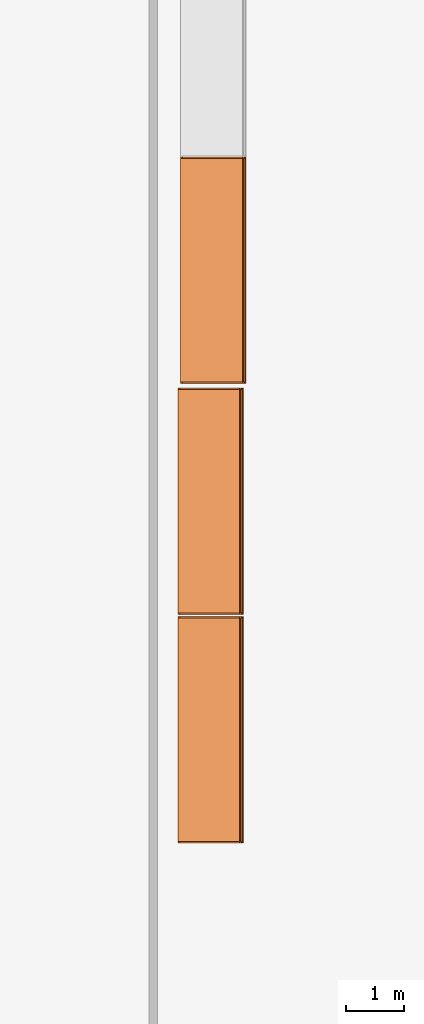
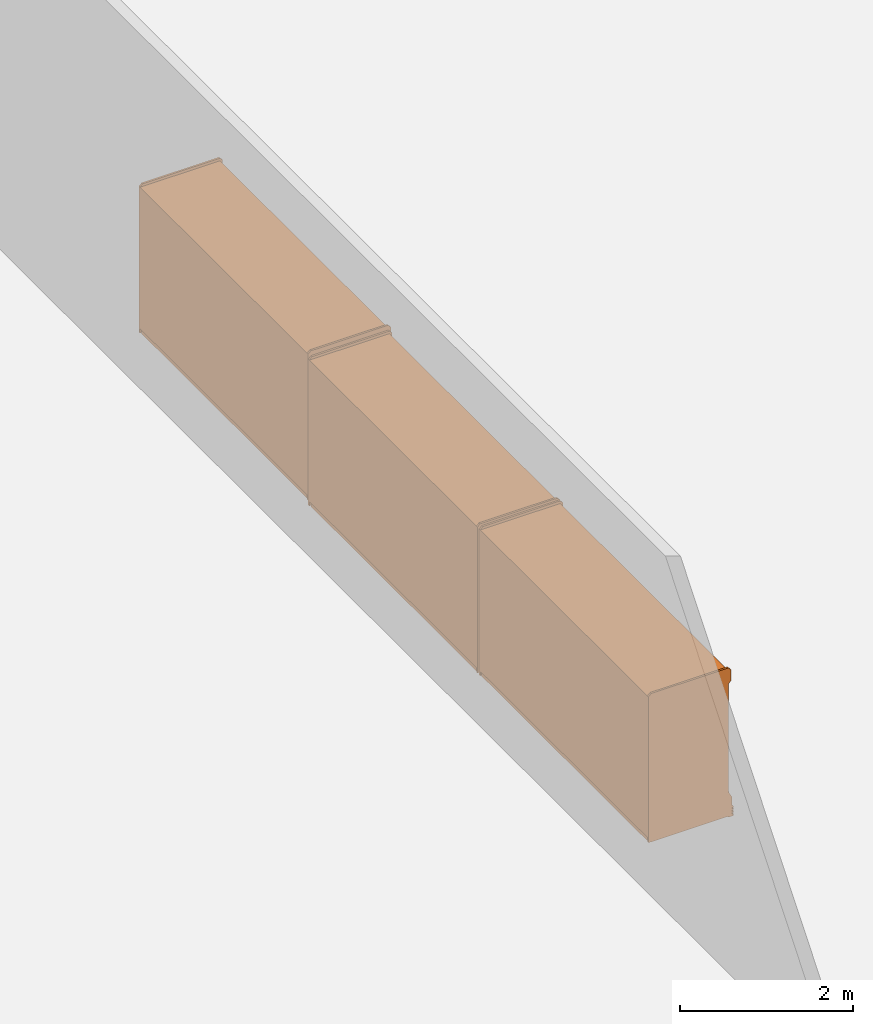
# One storey, part 2 of 11: 3 proxies.
"""IFC2X3 building model written with IfcOpenShell, lengths in metres."""

import ifcopenshell
import ifcopenshell.guid

model = None  # the IFC model being written
_history = None  # IfcOwnerHistory: only IFC2X3 demands one
_inside = {}  # id of a spatial element -> (the spatial element, [elements in it])
_under = {}  # id of a project, library or spatial element -> (it, [spatial elements below it])
_declared = {}  # id of a project -> (the project, [libraries it declares])
_typed = {}  # id of a type object -> (the type object, [elements of that type])
_made_of = {}  # id of a material, layer set ... -> (it, [elements and type objects made of it])


def new_model(schema):
    """Start an empty IFC model of exactly this schema.

    Asked for "IFC4X3", IfcOpenShell would pick the latest addendum, in which some entities
    have other attributes; the version numbers below select the first issue.
    IFC2X3 requires an IfcOwnerHistory on every rooted entity: one is made here for all.
    """
    global model, _history
    if schema == "IFC4X3":
        model = ifcopenshell.file(schema_version=(4, 3, 0, 0))
    else:
        model = ifcopenshell.file(schema=schema)
    _inside.clear()
    _under.clear()
    _declared.clear()
    _typed.clear()
    _made_of.clear()
    _history = None
    if model.schema == "IFC2X3":
        org = make("IfcOrganization", Name="unknown")
        user = make(
            "IfcPersonAndOrganization",
            ThePerson=make("IfcPerson", FamilyName="unknown"),
            TheOrganization=org,
        )
        app = make(
            "IfcApplication",
            ApplicationDeveloper=org,
            Version="unknown",
            ApplicationFullName="unknown",
            ApplicationIdentifier="unknown",
        )
        _history = make(
            "IfcOwnerHistory",
            OwningUser=user,
            OwningApplication=app,
            ChangeAction="ADDED",
            CreationDate=0,
        )
    return model


def make(cls, **values):
    """One entity of the class cls with the attributes given. An attribute that is None is left unset."""
    return model.create_entity(
        cls, **{name: value for name, value in values.items() if value is not None}
    )


def entity(cls, *values):
    """Any entity or typed value of the class cls, its attributes in the order of the schema. None: left unset."""
    e = model.create_entity(cls)
    for i, value in enumerate(values):
        if value is not None:
            e[i] = value
    return e


def rooted(cls, **values):
    """An entity with a GlobalId (a new one), such as an element, a storey or a relation."""
    return make(cls, GlobalId=ifcopenshell.guid.new(), OwnerHistory=_history, **values)


def si_unit(unit_type, name, prefix=None):
    """IfcSIUnit, for example si_unit("LENGTHUNIT", "METRE", prefix="MILLI")."""
    return make("IfcSIUnit", UnitType=unit_type, Prefix=prefix, Name=name)


def converted_unit(unit_type, name, factor, base, dimensions=None, offset=None):
    """IfcConversionBasedUnit, such as the inch: factor (a typed value) times the base unit."""
    return make(
        "IfcConversionBasedUnit"
        if offset is None
        else "IfcConversionBasedUnitWithOffset",
        ConversionOffset=offset,
        Dimensions=None
        if dimensions is None
        else entity("IfcDimensionalExponents", *dimensions),
        UnitType=unit_type,
        Name=name,
        ConversionFactor=make(
            "IfcMeasureWithUnit", ValueComponent=factor, UnitComponent=base
        ),
    )


def derived_unit(unit_type, elements):
    """IfcDerivedUnit: a product of units, each with its exponent."""
    return make(
        "IfcDerivedUnit",
        Elements=[
            make("IfcDerivedUnitElement", Unit=unit, Exponent=power)
            for unit, power in elements
        ],
        UnitType=unit_type,
    )


def assignment(units):
    """IfcUnitAssignment: the units of a project."""
    return None if units is None else make("IfcUnitAssignment", Units=units)


def point(xyz):
    """IfcCartesianPoint."""
    return None if xyz is None else make("IfcCartesianPoint", Coordinates=xyz)


def direction(xyz):
    """IfcDirection."""
    return None if xyz is None else make("IfcDirection", DirectionRatios=xyz)


def frame(location, z_axis=None, x_axis=None):
    """IfcAxis2Placement3D, a coordinate frame: its origin and axes. An axis left out is left unset."""
    return make(
        "IfcAxis2Placement3D",
        Location=point(location),
        Axis=direction(z_axis),
        RefDirection=direction(x_axis),
    )


def frame_2d(location, x_axis=None):
    """IfcAxis2Placement2D, a coordinate frame in the plane: its origin and x axis."""
    return make(
        "IfcAxis2Placement2D", Location=point(location), RefDirection=direction(x_axis)
    )


def origin():
    """The frame at (0, 0, 0) with its axes left unset."""
    return frame((0.0, 0.0, 0.0))


def origin_2d_with_axis():
    """The frame at (0, 0) in the plane with the x axis (1, 0) written out."""
    return frame_2d((0.0, 0.0), x_axis=(1.0, 0.0))


def place(relative_to, where):
    """IfcLocalPlacement: puts the frame where relative to a parent placement (None: the world)."""
    return make(
        "IfcLocalPlacement", PlacementRelTo=relative_to, RelativePlacement=where
    )


def context(
    kind, dimensions, precision=None, world=None, true_north=None, identifier=None
):
    """IfcGeometricRepresentationContext, for example the 3D "Model" context."""
    return make(
        "IfcGeometricRepresentationContext",
        ContextIdentifier=identifier,
        ContextType=kind,
        CoordinateSpaceDimension=dimensions,
        Precision=precision,
        WorldCoordinateSystem=world,
        TrueNorth=true_north,
    )


def subcontext(parent, identifier, kind, view, scale=None):
    """IfcGeometricRepresentationSubContext, for example "Body" below "Model"."""
    return make(
        "IfcGeometricRepresentationSubContext",
        ContextIdentifier=identifier,
        ContextType=kind,
        ParentContext=parent,
        TargetScale=scale,
        TargetView=view,
    )


def project(units=None, contexts=None):
    """IfcProject with its units and contexts."""
    return rooted(
        "IfcProject",
        Name="project",
        RepresentationContexts=contexts,
        UnitsInContext=assignment(units),
    )


def spatial(cls, under=None, at=None, **own):
    """A site, building, storey or space (cls), placed at a placement, below another one or the project."""
    s = rooted(cls, ObjectPlacement=at, **own)
    if under is not None:
        _under.setdefault(under.id(), (under, []))[1].append(s)
    return s


def polyline(points):
    """IfcPolyline through the points."""
    return make("IfcPolyline", Points=[point(p) for p in points])


def circle_curve(where, radius):
    """IfcCircle in the frame where."""
    return make("IfcCircle", Position=where, Radius=radius)


def parameter(value):
    """IfcParameterValue: where a trimmed curve begins or ends, as a parameter of its basis curve."""
    return model.create_entity("IfcParameterValue", value)


def trimmed(basis, trim1, trim2, sense, master):
    """IfcTrimmedCurve: the piece of a basis curve between two trims."""
    return make(
        "IfcTrimmedCurve",
        BasisCurve=basis,
        Trim1=trim1,
        Trim2=trim2,
        SenseAgreement=sense,
        MasterRepresentation=master,
    )


def segment(curve, same_sense, transition):
    """IfcCompositeCurveSegment."""
    return make(
        "IfcCompositeCurveSegment",
        Transition=transition,
        SameSense=same_sense,
        ParentCurve=curve,
    )


def composite_curve(segments, self_intersect=None):
    """IfcCompositeCurve: segments joined end to end."""
    return make("IfcCompositeCurve", Segments=segments, SelfIntersect=self_intersect)


def profile(cls, at=None, kind="AREA", **sizes):
    """A parametric profile (cls). Its sizes go by their IFC names, for example OverallWidth=200.0."""
    return make(cls, ProfileType=kind, Position=at, **sizes)


def rectangle(**sizes):
    """IfcRectangleProfileDef."""
    return profile("IfcRectangleProfileDef", **sizes)


def outline(outer, holes=None, kind="AREA"):
    """IfcArbitraryClosedProfileDef: a profile drawn as a closed curve; with holes, ...WithVoids."""
    if holes is None:
        return make("IfcArbitraryClosedProfileDef", ProfileType=kind, OuterCurve=outer)
    return make(
        "IfcArbitraryProfileDefWithVoids",
        ProfileType=kind,
        OuterCurve=outer,
        InnerCurves=holes,
    )


def extrude(swept, where, along, depth):
    """IfcExtrudedAreaSolid: the profile swept, set in the frame where, extruded along a direction by depth."""
    return make(
        "IfcExtrudedAreaSolid",
        SweptArea=swept,
        Position=where,
        ExtrudedDirection=direction(along),
        Depth=depth,
    )


def shape(context_of_items, identifier, shape_type, items):
    """IfcShapeRepresentation: the items that make up one representation, for example the "Body"."""
    return make(
        "IfcShapeRepresentation",
        ContextOfItems=context_of_items,
        RepresentationIdentifier=identifier,
        RepresentationType=shape_type,
        Items=items,
    )


def source(mapping_origin, context_of_items, identifier, shape_type, items):
    """IfcRepresentationMap: a shape defined once, which mapped items show again and again."""
    return make(
        "IfcRepresentationMap",
        MappingOrigin=mapping_origin,
        MappedRepresentation=shape(context_of_items, identifier, shape_type, items),
    )


def transform(
    local_origin,
    x_axis=None,
    y_axis=None,
    z_axis=None,
    scale=None,
    scale2=None,
    scale3=None,
    uniform=True,
):
    """IfcCartesianTransformationOperator3D, or its non-uniform kind. x_axis, y_axis, z_axis: its Axis1, 2, 3."""
    if uniform:
        return make(
            "IfcCartesianTransformationOperator3D",
            Axis1=direction(x_axis),
            Axis2=direction(y_axis),
            LocalOrigin=point(local_origin),
            Scale=scale,
            Axis3=direction(z_axis),
        )
    return make(
        "IfcCartesianTransformationOperator3DnonUniform",
        Axis1=direction(x_axis),
        Axis2=direction(y_axis),
        LocalOrigin=point(local_origin),
        Scale=scale,
        Axis3=direction(z_axis),
        Scale2=scale2,
        Scale3=scale3,
    )


def mapped(mapping_source, mapping_target):
    """IfcMappedItem: shows the shape of a source again, moved by a transform."""
    return make(
        "IfcMappedItem", MappingSource=mapping_source, MappingTarget=mapping_target
    )


def material(Name=None, Category=None):
    """IfcMaterial."""
    return make("IfcMaterial", Name=Name, Category=Category)


def material_list(materials):
    """IfcMaterialList."""
    return make("IfcMaterialList", Materials=materials)


def made_of(thing, what):
    """Note that an element or type object is made of a material, layer set ...; save() writes the relation."""
    if what is not None:
        _made_of.setdefault(what.id(), (what, []))[1].append(thing)
    return thing


def type_object(cls, material=None, **own):
    """A type object (cls), such as IfcWallType, which elements share."""
    return made_of(rooted(cls, **own), material)


def type_shapes(of_type, sources):
    """Give a type object the sources (RepresentationMaps) that its elements show as mapped items."""
    of_type.RepresentationMaps = sources


def element(
    cls,
    number,
    at=None,
    inside=None,
    cuts=None,
    type_object=None,
    material=None,
    context=None,
    identifier="Body",
    shape_type=None,
    held_by="IfcProductDefinitionShape",
    body=None,
    shapes=None,
    **own,
):
    """One element of the class cls, such as IfcWall. Its Tag is "e" and its number.

    at: its placement. inside: the storey or other place that contains it. cuts: it is an
    opening in that element (IfcRelVoidsElement). A single representation is given by context,
    identifier, shape_type and body (its items); several are given by shapes. held_by: the class
    of the entity that holds the representations. save() writes the other relations.
    """
    e = rooted(cls, Tag="e%d" % number, ObjectPlacement=at, **own)
    if body is not None:
        shapes = [shape(context, identifier, shape_type, body)]
    if shapes is not None:
        e.Representation = make(held_by, Representations=shapes)
    if inside is not None:
        _inside.setdefault(inside.id(), (inside, []))[1].append(e)
    if cuts is not None:
        rooted(
            "IfcRelVoidsElement", RelatingBuildingElement=cuts, RelatedOpeningElement=e
        )
    if type_object is not None:
        _typed.setdefault(type_object.id(), (type_object, []))[1].append(e)
    return made_of(e, material)


def aggregate(whole, parts):
    """IfcRelAggregates: a whole, such as a stair, and the parts it consists of."""
    return rooted("IfcRelAggregates", RelatingObject=whole, RelatedObjects=parts)


def save(model, path):
    """Write the relations noted so far, then the file.

    IfcRelAggregates (storeys below a building ...), IfcRelContainedInSpatialStructure (elements
    in a storey), IfcRelDefinesByType, IfcRelAssociatesMaterial and IfcRelDeclares: one each for
    every whole, place, type object, material and project.
    """
    for whole, parts in _under.values():
        aggregate(whole, parts)
    for where, things in _inside.values():
        rooted(
            "IfcRelContainedInSpatialStructure",
            RelatedElements=things,
            RelatingStructure=where,
        )
    for kind, things in _typed.values():
        rooted("IfcRelDefinesByType", RelatedObjects=things, RelatingType=kind)
    for what, things in _made_of.values():
        rooted("IfcRelAssociatesMaterial", RelatedObjects=things, RelatingMaterial=what)
    for by, libraries in _declared.values():
        rooted("IfcRelDeclares", RelatingContext=by, RelatedDefinitions=libraries)
    model.write(path)


model = new_model("IFC2X3")

# Units and contexts
model_context = context("Model", 3, precision=1e-05, world=origin(), true_north=direction((6.12303176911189e-17, 1.0)))
body_context = subcontext(model_context, "Body", "Model", "MODEL_VIEW")
ifc_project = project(units=[si_unit("LENGTHUNIT", "METRE"), si_unit("AREAUNIT", "SQUARE_METRE"), si_unit("VOLUMEUNIT", "CUBIC_METRE"), converted_unit("PLANEANGLEUNIT", "DEGREE", entity("IfcRatioMeasure", 0.0174532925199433), si_unit("PLANEANGLEUNIT", "RADIAN"), dimensions=[0, 0, 0, 0, 0, 0, 0]), si_unit("MASSUNIT", "GRAM", prefix="KILO"), derived_unit("MASSDENSITYUNIT", [(si_unit("MASSUNIT", "GRAM", prefix="KILO"), 1), (si_unit("LENGTHUNIT", "METRE"), -3)]), si_unit("TIMEUNIT", "SECOND"), si_unit("FREQUENCYUNIT", "HERTZ"), si_unit("THERMODYNAMICTEMPERATUREUNIT", "DEGREE_CELSIUS"), derived_unit("THERMALTRANSMITTANCEUNIT", [(si_unit("MASSUNIT", "GRAM", prefix="KILO"), 1), (si_unit("THERMODYNAMICTEMPERATUREUNIT", "KELVIN"), -1), (si_unit("TIMEUNIT", "SECOND"), -3)]), derived_unit("VOLUMETRICFLOWRATEUNIT", [(si_unit("LENGTHUNIT", "METRE"), 3), (si_unit("TIMEUNIT", "SECOND"), -1)]), si_unit("ELECTRICCURRENTUNIT", "AMPERE"), si_unit("ELECTRICVOLTAGEUNIT", "VOLT"), si_unit("POWERUNIT", "WATT"), si_unit("FORCEUNIT", "NEWTON", prefix="KILO"), si_unit("ILLUMINANCEUNIT", "LUX"), si_unit("LUMINOUSFLUXUNIT", "LUMEN"), si_unit("LUMINOUSINTENSITYUNIT", "CANDELA"), derived_unit("USERDEFINED", [(si_unit("MASSUNIT", "GRAM", prefix="KILO"), -1), (si_unit("LENGTHUNIT", "METRE"), -2), (si_unit("TIMEUNIT", "SECOND"), 3), (si_unit("LUMINOUSFLUXUNIT", "LUMEN"), 1)]), derived_unit("LINEARVELOCITYUNIT", [(si_unit("LENGTHUNIT", "METRE"), 1), (si_unit("TIMEUNIT", "SECOND"), -1)]), si_unit("PRESSUREUNIT", "PASCAL"), derived_unit("USERDEFINED", [(si_unit("LENGTHUNIT", "METRE"), -2), (si_unit("MASSUNIT", "GRAM", prefix="KILO"), 1), (si_unit("TIMEUNIT", "SECOND"), -2)])], contexts=[model_context])

# Site, building, storey
site_placement = place(None, origin())
site = spatial("IfcSite", under=ifc_project, at=site_placement, Name="Default", CompositionType="ELEMENT")
building_placement = place(site_placement, origin())
building = spatial("IfcBuilding", under=site, at=building_placement, CompositionType="ELEMENT")
storey_placement = place(building_placement, frame((0.0, 0.0, 1.49233632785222)))
storey = spatial("IfcBuildingStorey", under=building, at=storey_placement, Name="Niveau 0", CompositionType="ELEMENT", Elevation=1.49233632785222)

# Proxies
ifc_material_1 = material(Name="Métal - Chrome")
ifc_material_2 = material(Name="Verre")
ifc_material_3 = material(Name="Peinture - Blanc")
ifc_material_4 = material(Name="Peinture - Gris foncé")
ifc_material_list_1 = material_list([ifc_material_1, ifc_material_2, ifc_material_3, ifc_material_4])
ifc_material_list_2 = material_list([ifc_material_1, ifc_material_2, ifc_material_3, ifc_material_4])
building_element_proxy_type = type_object("IfcBuildingElementProxyType", Name="Longueur 3910 mm", PredefinedType="NOTDEFINED", material=ifc_material_list_2)
shared_shape = source(origin(), body_context, "Body", "SweptSolid", [
    extrude(outline(polyline([(-0.3937, -0.819150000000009), (0.3683, -0.819150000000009), (0.3683, -0.768350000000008), (-0.3429, -0.768350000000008), (-0.3429, 0.768350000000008), (0.3683, 0.768350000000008), (0.3683, 0.819150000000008), (-0.3937, 0.819150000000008), (-0.3937, -0.819150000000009)])), frame((0.211931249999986, 0.0126999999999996, 1.18745000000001), z_axis=(0.0, 1.0, 0.0), x_axis=(1.0, 0.0, 0.0)), (0.0, 0.0, 1.0), 0.0253999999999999),
    extrude(outline(polyline([(-0.3937, -0.819150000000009), (0.3683, -0.819150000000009), (0.3683, -0.768350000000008), (-0.3429, -0.768350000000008), (-0.3429, 0.768350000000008), (0.3683, 0.768350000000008), (0.3683, 0.819150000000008), (-0.3937, 0.819150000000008), (-0.3937, -0.819150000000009)])), frame((-0.556418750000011, 0.0126999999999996, 1.18745000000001), z_axis=(0.0, 1.0, 0.0), x_axis=(1.0, 0.0, 0.0)), (0.0, 0.0, 1.0), 0.0253999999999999),
    extrude(outline(polyline([(-0.3937, -0.819150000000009), (0.3683, -0.819150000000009), (0.3683, -0.768350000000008), (-0.3429, -0.768350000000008), (-0.3429, 0.768350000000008), (0.3683, 0.768350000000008), (0.3683, 0.819150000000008), (-0.3937, 0.819150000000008), (-0.3937, -0.819150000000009)])), frame((-1.32476875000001, 0.0126999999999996, 1.18745000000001), z_axis=(0.0, 1.0, 0.0), x_axis=(1.0, 0.0, 0.0)), (0.0, 0.0, 1.0), 0.0253999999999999),
    extrude(outline(polyline([(-0.3937, -0.819150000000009), (0.3683, -0.819150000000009), (0.3683, -0.768350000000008), (-0.3429, -0.768350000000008), (-0.3429, 0.768350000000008), (0.3683, 0.768350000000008), (0.3683, 0.819150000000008), (-0.3937, 0.819150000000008), (-0.3937, -0.819150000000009)])), frame((-2.09311875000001, 0.0126999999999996, 1.18745000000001), z_axis=(0.0, 1.0, 0.0), x_axis=(1.0, 0.0, 0.0)), (0.0, 0.0, 1.0), 0.0253999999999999),
    extrude(outline(polyline([(-0.902820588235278, -0.201945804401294), (-0.902820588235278, -0.214645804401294), (0.82437941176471, -0.214645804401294), (0.82437941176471, -0.201945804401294), (0.608479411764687, -0.201945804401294), (0.608479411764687, -0.0898341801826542), (0.589429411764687, -0.070784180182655), (0.589429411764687, 0.303324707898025), (0.570379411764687, 0.312207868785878), (0.570379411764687, -0.201945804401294), (0.316379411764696, -0.201945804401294), (0.316379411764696, -0.0851023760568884), (0.297329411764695, -0.0660523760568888), (0.297329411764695, 0.303324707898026), (0.278279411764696, 0.312207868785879), (0.278279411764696, -0.201945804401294), (0.0242794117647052, -0.201945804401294), (0.0242794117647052, -0.0803705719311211), (0.00522941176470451, -0.0613205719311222), (0.00522941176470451, 0.391796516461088), (-0.0138205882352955, 0.40067967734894), (-0.0138205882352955, -0.201945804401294), (-0.267820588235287, -0.201945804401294), (-0.267820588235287, -0.0851023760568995), (-0.286870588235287, -0.0660523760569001), (-0.286870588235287, 0.391796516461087), (-0.305920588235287, 0.400679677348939), (-0.305920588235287, -0.201945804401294), (-0.559920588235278, -0.201945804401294), (-0.559920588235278, -0.0803705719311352), (-0.578970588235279, -0.0613205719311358), (-0.578970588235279, 0.387979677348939), (-0.598020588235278, 0.394954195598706), (-0.598020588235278, -0.201945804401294), (-0.902820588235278, -0.201945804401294)])), frame((-2.10542815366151, 0.69975419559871, 1.12917941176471), z_axis=(-1.0, 0.0, 0.0), x_axis=(0.0, 0.0, -1.0)), (0.0, 0.0, -1.0), 0.0119188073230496),
    extrude(outline(polyline([(-0.902820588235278, -0.201945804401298), (-0.902820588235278, -0.214645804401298), (0.82437941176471, -0.214645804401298), (0.82437941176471, -0.201945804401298), (0.608479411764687, -0.201945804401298), (0.608479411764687, -0.089834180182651), (0.589429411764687, -0.0707841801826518), (0.589429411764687, 0.303324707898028), (0.570379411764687, 0.312207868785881), (0.570379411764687, -0.201945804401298), (0.316379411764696, -0.201945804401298), (0.316379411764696, -0.0851023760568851), (0.297329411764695, -0.0660523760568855), (0.297329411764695, 0.303324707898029), (0.278279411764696, 0.312207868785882), (0.278279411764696, -0.201945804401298), (0.0242794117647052, -0.201945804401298), (0.0242794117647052, -0.0803705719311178), (0.00522941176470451, -0.0613205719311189), (0.00522941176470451, 0.391796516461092), (-0.0138205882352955, 0.400679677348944), (-0.0138205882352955, -0.201945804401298), (-0.267820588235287, -0.201945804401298), (-0.267820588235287, -0.0851023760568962), (-0.286870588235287, -0.0660523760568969), (-0.286870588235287, 0.39179651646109), (-0.305920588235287, 0.400679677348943), (-0.305920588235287, -0.201945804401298), (-0.559920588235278, -0.201945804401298), (-0.559920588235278, -0.0803705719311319), (-0.578970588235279, -0.0613205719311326), (-0.578970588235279, 0.387979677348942), (-0.598020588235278, 0.394954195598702), (-0.598020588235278, -0.201945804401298), (-0.902820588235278, -0.201945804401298)])), frame((-0.556028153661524, 0.699754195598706, 1.12917941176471), z_axis=(-1.0, 0.0, 0.0), x_axis=(0.0, 0.0, -1.0)), (0.0, 0.0, -1.0), 0.0119188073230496),
    extrude(outline(polyline([(-0.3937, -0.819150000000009), (0.3683, -0.819150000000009), (0.3683, -0.768350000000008), (-0.3429, -0.768350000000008), (-0.3429, 0.768350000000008), (0.3683, 0.768350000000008), (0.3683, 0.819150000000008), (-0.3937, 0.819150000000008), (-0.3937, -0.819150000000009)])), frame((-2.86146875, 0.0126999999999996, 1.18745000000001), z_axis=(0.0, 1.0, 0.0), x_axis=(1.0, 0.0, 0.0)), (0.0, 0.0, 1.0), 0.0253999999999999),
    extrude(rectangle(XDim=0.00634999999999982, YDim=2.20345000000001, at=frame_2d((-2.16840434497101e-18, 0.0), x_axis=(1.0, 0.0))), frame((-0.565943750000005, 0.0285749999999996, 0.419100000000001), z_axis=(0.0, 0.0, 1.0), x_axis=(0.0, 1.0, 0.0)), (0.0, 0.0, 1.0), 1.53670000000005),
    extrude(rectangle(XDim=0.00634999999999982, YDim=1.49224999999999, at=frame_2d((-2.16840434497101e-18, -1.11022302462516e-16), x_axis=(1.0, 0.0))), frame((-2.46459375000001, 0.0285749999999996, 0.4191), z_axis=(0.0, 0.0, 1.0), x_axis=(0.0, 1.0, 0.0)), (0.0, 0.0, 1.0), 1.53669999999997),
    extrude(outline(polyline([(-0.88265, -1.9304), (0.882649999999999, -1.9304), (0.88265, 1.9304), (-0.882649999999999, 1.9304), (-0.88265, -1.9304)]), holes=[polyline([(-0.806450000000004, -0.0190500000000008), (-0.806450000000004, 1.8923), (0.80645, 1.8923), (0.80645, -0.0190500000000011), (0.806449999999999, -1.8923), (-0.806450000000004, -1.8923), (-0.806450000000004, -0.0190500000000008)])]), frame((-1.35651875, 0.0380999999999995, 1.18745), z_axis=(0.0, 1.0, 0.0), x_axis=(0.0, 0.0, -1.0)), (0.0, 0.0, 1.0), 0.0381),
    extrude(outline(composite_curve([segment(trimmed(circle_curve(frame_2d((-0.0095885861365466, 0.0), x_axis=(1.0, 0.0)), 0.0327139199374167), [parameter(287.043889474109)], [parameter(72.9561105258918)], True, "PARAMETER"), True, "CONTINUOUS"), segment(polyline([(0.0, 0.0312771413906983), (0.0, -0.0312771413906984)]), True, "CONTINUOUS")], self_intersect=False)), frame((-3.28691875, 0.0, 0.324322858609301), z_axis=(1.0, 0.0, 0.0), x_axis=(0.0, -1.0, 0.0)), (0.0, 0.0, 1.0), 3.8608),
    extrude(outline(polyline([(-0.058322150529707, -0.045007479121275), (-0.0317412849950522, -0.045007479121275), (-0.0206789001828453, -0.0360006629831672), (-0.0312750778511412, -0.0229861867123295), (-0.0214265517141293, -0.0149676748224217), (-0.0108303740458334, -0.0279821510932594), (0.00394241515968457, -0.0159543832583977), (-0.00665376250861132, -0.00293990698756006), (0.00811902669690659, 0.0090878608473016), (0.0187152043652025, -0.00392661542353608), (0.0334879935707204, 0.00810115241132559), (0.0228918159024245, 0.0211156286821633), (0.0376646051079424, 0.0331433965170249), (0.0482607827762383, 0.0201289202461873), (0.0704563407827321, 0.0382001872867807), (0.0277861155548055, 0.0906087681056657), (-0.0903961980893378, -0.00561337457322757), (-0.058322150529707, -0.045007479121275)])), frame((-3.31231875, -0.052721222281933, 0.0787558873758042), z_axis=(1.0, 0.0, 0.0), x_axis=(0.0, -0.631378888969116, -0.775474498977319)), (0.0, 0.0, 1.0), 3.9116),
    extrude(outline(polyline([(-0.78162589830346, -1.01392662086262), (0.249253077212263, -1.01392662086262), (0.285174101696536, -0.978005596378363), (0.285174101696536, -0.825605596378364), (0.249253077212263, -0.789684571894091), (0.249253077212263, 0.736494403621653), (0.300053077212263, 0.824482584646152), (0.300053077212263, 0.939694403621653), (0.249253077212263, 0.939694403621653), (0.249253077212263, 1.07939440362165), (-0.817546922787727, 1.07939440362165), (-0.817546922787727, -0.978005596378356), (-0.78162589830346, -1.01392662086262)])), frame((0.573881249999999, 0.249253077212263, 1.09209440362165), z_axis=(1.0, 0.0, 0.0), x_axis=(0.0, -1.0, 0.0)), (0.0, 0.0, 1.0), 0.0253999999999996),
    extrude(outline(polyline([(-0.78162589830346, -1.01392662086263), (0.249253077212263, -1.01392662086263), (0.285174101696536, -0.97800559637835), (0.285174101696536, -0.825605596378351), (0.249253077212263, -0.789684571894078), (0.249253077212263, 0.736494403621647), (0.300053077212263, 0.824482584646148), (0.300053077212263, 0.939694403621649), (0.249253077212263, 0.939694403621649), (0.249253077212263, 1.07939440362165), (-0.817546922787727, 1.07939440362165), (-0.817546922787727, -0.97800559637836), (-0.78162589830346, -1.01392662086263)])), frame((-3.31231875, 0.249253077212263, 1.09209440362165), z_axis=(1.0, 0.0, 0.0), x_axis=(0.0, -1.0, 0.0)), (0.0, 0.0, 1.0), 0.0253999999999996),
    extrude(rectangle(XDim=3.8354, YDim=0.6096, at=origin_2d_with_axis()), frame((-1.35651875, 0.596900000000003, 0.558800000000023)), (0.0, 0.0, 1.0), 0.009525),
    extrude(rectangle(XDim=3.8354, YDim=0.6096, at=origin_2d_with_axis()), frame((-1.35651875, 0.596900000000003, 1.72719999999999)), (0.0, 0.0, 1.0), 0.009525),
    extrude(rectangle(XDim=3.8354, YDim=0.6096, at=origin_2d_with_axis()), frame((-1.35651875, 0.596900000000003, 1.4351)), (0.0, 0.0, 1.0), 0.009525),
    extrude(rectangle(XDim=3.8354, YDim=0.6096, at=frame_2d((0.0, -5.55111512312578e-17), x_axis=(1.0, 0.0))), frame((-1.35651875, 0.596900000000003, 1.14300000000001)), (0.0, 0.0, 1.0), 0.009525),
    extrude(rectangle(XDim=3.8354, YDim=0.6096, at=frame_2d((0.0, -5.55111512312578e-17), x_axis=(1.0, 0.0))), frame((-1.35651875, 0.596900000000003, 0.850900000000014)), (0.0, 0.0, 1.0), 0.009525),
    extrude(outline(polyline([(-0.902820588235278, -0.198746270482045), (-0.902820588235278, -0.211446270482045), (0.82437941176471, -0.211446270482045), (0.82437941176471, -0.198746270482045), (0.608479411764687, -0.198746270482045), (0.608479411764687, -0.0923601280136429), (0.589429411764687, -0.0733101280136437), (0.589429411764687, 0.300798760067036), (0.570379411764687, 0.309681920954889), (0.570379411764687, -0.198746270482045), (0.316379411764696, -0.198746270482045), (0.316379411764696, -0.0876283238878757), (0.297329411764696, -0.0685783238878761), (0.297329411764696, 0.300798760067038), (0.278279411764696, 0.309681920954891), (0.278279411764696, -0.198746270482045), (0.0242794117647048, -0.198746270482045), (0.0242794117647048, -0.082896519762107), (0.0052294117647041, -0.0638465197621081), (0.0052294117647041, 0.389270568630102), (-0.0138205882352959, 0.398153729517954), (-0.0138205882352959, -0.198746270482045), (-0.267820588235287, -0.198746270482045), (-0.267820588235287, -0.0876283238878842), (-0.286870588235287, -0.0685783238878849), (-0.286870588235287, 0.389270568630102), (-0.305920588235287, 0.398153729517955), (-0.305920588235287, -0.198746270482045), (-0.559920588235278, -0.198746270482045), (-0.559920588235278, -0.0828965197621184), (-0.578970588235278, -0.0638465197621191), (-0.578970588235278, 0.385453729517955), (-0.598020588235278, 0.398153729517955), (-0.598020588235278, -0.198746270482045), (-0.902820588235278, -0.198746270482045)])), frame((-1.36247815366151, 0.702953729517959, 1.12917941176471), z_axis=(-1.0, 0.0, 0.0), x_axis=(0.0, 0.0, -1.0)), (0.0, 0.0, -1.0), 0.0119188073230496),
    extrude(outline(polyline([(-0.902820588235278, -0.198746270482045), (-0.902820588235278, -0.211446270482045), (0.82437941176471, -0.211446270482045), (0.82437941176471, -0.198746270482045), (0.608479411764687, -0.198746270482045), (0.608479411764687, -0.0923601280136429), (0.589429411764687, -0.0733101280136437), (0.589429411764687, 0.300798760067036), (0.570379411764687, 0.309681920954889), (0.570379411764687, -0.198746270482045), (0.316379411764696, -0.198746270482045), (0.316379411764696, -0.0876283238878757), (0.297329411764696, -0.0685783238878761), (0.297329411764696, 0.300798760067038), (0.278279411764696, 0.309681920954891), (0.278279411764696, -0.198746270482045), (0.0242794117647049, -0.198746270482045), (0.0242794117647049, -0.082896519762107), (0.00522941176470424, -0.0638465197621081), (0.00522941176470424, 0.389270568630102), (-0.0138205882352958, 0.398153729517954), (-0.0138205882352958, -0.198746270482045), (-0.267820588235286, -0.198746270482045), (-0.267820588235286, -0.0876283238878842), (-0.286870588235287, -0.0685783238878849), (-0.286870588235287, 0.389270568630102), (-0.305920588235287, 0.398153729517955), (-0.305920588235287, -0.198746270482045), (-0.559920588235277, -0.198746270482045), (-0.559920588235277, -0.0828965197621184), (-0.578970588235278, -0.0638465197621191), (-0.578970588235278, 0.385453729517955), (-0.598020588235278, 0.398153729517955), (-0.598020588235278, -0.198746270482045), (-0.902820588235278, -0.198746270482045)])), frame((0.548481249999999, 0.702953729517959, 1.12917941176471), z_axis=(-1.0, 0.0, 0.0), x_axis=(0.0, 0.0, -1.0)), (0.0, 0.0, -1.0), 0.0126999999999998),
    extrude(outline(polyline([(-0.902820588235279, -0.198746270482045), (-0.902820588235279, -0.211446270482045), (0.824379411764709, -0.211446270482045), (0.824379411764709, -0.198746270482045), (0.608479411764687, -0.198746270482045), (0.608479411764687, -0.0923601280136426), (0.589429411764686, -0.0733101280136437), (0.589429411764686, 0.300798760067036), (0.570379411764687, 0.309681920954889), (0.570379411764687, -0.198746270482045), (0.316379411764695, -0.198746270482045), (0.316379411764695, -0.0876283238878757), (0.297329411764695, -0.0685783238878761), (0.297329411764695, 0.300798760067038), (0.278279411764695, 0.309681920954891), (0.278279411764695, -0.198746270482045), (0.0242794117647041, -0.198746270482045), (0.0242794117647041, -0.082896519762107), (0.00522941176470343, -0.0638465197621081), (0.00522941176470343, 0.389270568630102), (-0.0138205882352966, 0.398153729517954), (-0.0138205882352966, -0.198746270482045), (-0.267820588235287, -0.198746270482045), (-0.267820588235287, -0.0876283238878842), (-0.286870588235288, -0.0685783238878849), (-0.286870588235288, 0.389270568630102), (-0.305920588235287, 0.398153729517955), (-0.305920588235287, -0.198746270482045), (-0.559920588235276, -0.198746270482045), (-0.559920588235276, -0.0828965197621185), (-0.578970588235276, -0.0638465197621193), (-0.578970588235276, 0.385453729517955), (-0.598020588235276, 0.398153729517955), (-0.598020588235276, -0.198746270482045), (-0.902820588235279, -0.198746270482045)])), frame((-3.27421875, 0.702953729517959, 1.12917941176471), z_axis=(-1.0, 0.0, 0.0), x_axis=(0.0, 0.0, -1.0)), (0.0, 0.0, -1.0), 0.0127000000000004),
    extrude(outline(polyline([(-0.99836485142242, -0.344904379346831), (-0.947564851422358, -0.344904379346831), (-0.947564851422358, -0.192504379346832), (-0.960264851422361, -0.192504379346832), (-0.960264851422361, 0.569495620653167), (0.766935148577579, 0.569495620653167), (0.766935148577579, -0.306804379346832), (0.716135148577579, -0.306804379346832), (0.716135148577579, -0.344904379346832), (0.855178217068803, -0.344904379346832), (0.995535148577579, -0.204547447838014), (0.995535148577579, 0.721895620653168), (-0.99836485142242, 0.721895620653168), (-0.99836485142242, -0.344904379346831)])), frame((-3.28691875, 0.344904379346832, 1.07173514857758), z_axis=(1.0, 0.0, 0.0), x_axis=(0.0, 0.0, -1.0)), (0.0, 0.0, 1.0), 3.8608),
    extrude(rectangle(XDim=3.8608, YDim=0.85725, at=frame_2d((-3.33066907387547e-16, -5.55111512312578e-17), x_axis=(1.0, 0.0))), frame((-1.35651875, 0.619125, 0.0), z_axis=(0.0, 0.0, 1.0), x_axis=(-1.0, 0.0, 0.0)), (0.0, 0.0, 1.0), 0.0762),
])
type_shapes(building_element_proxy_type, [shared_shape])
proxy_1_placement = place(storey_placement, frame((-1.86966022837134, -14.6041311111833, 0.0), z_axis=(0.0, 0.0, 1.0), x_axis=(0.0, 1.0, 0.0)))
element("IfcBuildingElementProxy", 1, at=proxy_1_placement, inside=storey, type_object=building_element_proxy_type, material=ifc_material_list_1, Name="Congélateur - Vertical cinq portes:Longueur 3910 mm", ObjectType="Congélateur - Vertical cinq portes:Longueur 3910 mm", context=body_context, shape_type="MappedRepresentation", body=[
    mapped(shared_shape, transform((0.0, 0.0, 0.0), scale=1.0)),
])
ifc_material_list_3 = material_list([ifc_material_1, ifc_material_2, ifc_material_3, ifc_material_4])
proxy_2_placement = place(storey_placement, frame((-1.91666022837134, -22.5491311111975, 0.0), z_axis=(0.0, 0.0, 1.0), x_axis=(0.0, 1.0, 0.0)))
element("IfcBuildingElementProxy", 2, at=proxy_2_placement, inside=storey, type_object=building_element_proxy_type, material=ifc_material_list_3, Name="Congélateur - Vertical cinq portes:Longueur 3910 mm", ObjectType="Congélateur - Vertical cinq portes:Longueur 3910 mm", context=body_context, shape_type="MappedRepresentation", body=[
    mapped(shared_shape, transform((0.0, 0.0, 0.0), scale=1.0)),
])
ifc_material_list_4 = material_list([ifc_material_1, ifc_material_2, ifc_material_3, ifc_material_4])
proxy_3_placement = place(storey_placement, frame((-1.91666022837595, -18.5991311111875, 0.0), z_axis=(0.0, 0.0, 1.0), x_axis=(0.0, 1.0, 0.0)))
element("IfcBuildingElementProxy", 3, at=proxy_3_placement, inside=storey, type_object=building_element_proxy_type, material=ifc_material_list_4, Name="Congélateur - Vertical cinq portes:Longueur 3910 mm", ObjectType="Congélateur - Vertical cinq portes:Longueur 3910 mm", context=body_context, shape_type="MappedRepresentation", body=[
    mapped(shared_shape, transform((0.0, 0.0, 0.0), scale=1.0)),
])

save(model, "model.ifc")
